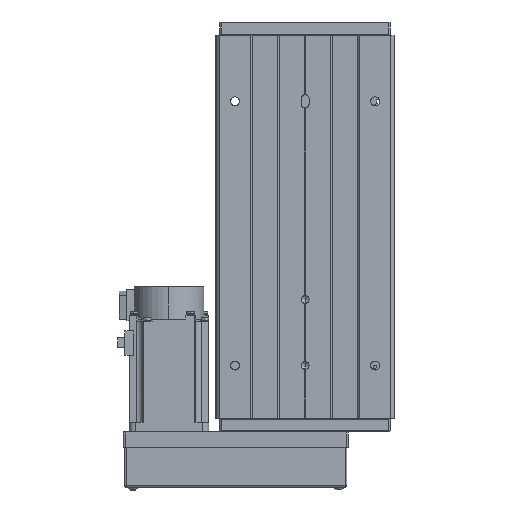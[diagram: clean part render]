
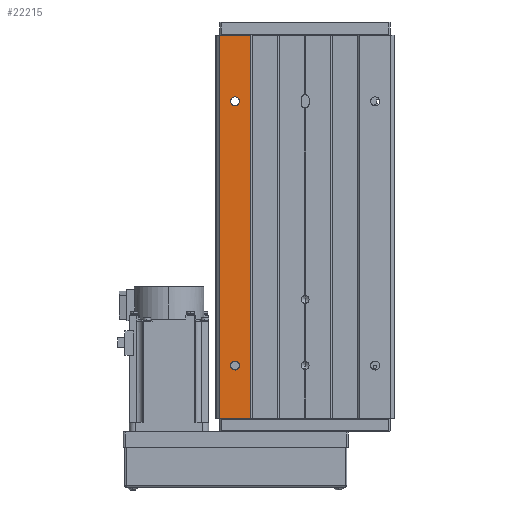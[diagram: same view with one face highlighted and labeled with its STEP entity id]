
A CAD part, front view. The second image highlights one B-rep face of the part: STEP entity #22215.
In plain terms, the highlighted planar face has unit normal (0, -1, 0).
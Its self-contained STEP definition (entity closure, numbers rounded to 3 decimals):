
#550 = LINE ( 'NONE', #13877, #19513 ) ;
#814 = DIRECTION ( 'NONE',  ( 0., 0., 1. ) ) ;
#1157 = DIRECTION ( 'NONE',  ( 0., 1., 0. ) ) ;
#1965 = CARTESIAN_POINT ( 'NONE',  ( 41., -1., 145. ) ) ;
#3184 = VERTEX_POINT ( 'NONE', #36130 ) ;
#3312 = CARTESIAN_POINT ( 'NONE',  ( 64.5, -1., 145. ) ) ;
#3517 = CARTESIAN_POINT ( 'NONE',  ( 53., -1., -95. ) ) ;
#4042 = CIRCLE ( 'NONE', #28418, 3.4 ) ;
#4135 = CIRCLE ( 'NONE', #28503, 3.4 ) ;
#4851 = ORIENTED_EDGE ( 'NONE', *, *, #41829, .T. ) ;
#5685 = AXIS2_PLACEMENT_3D ( 'NONE', #36392, #6546, #19836 ) ;
#6524 = DIRECTION ( 'NONE',  ( 0., 1., 0. ) ) ;
#6546 = DIRECTION ( 'NONE',  ( 0., 1., 0. ) ) ;
#7416 = CIRCLE ( 'NONE', #13001, 3.4 ) ;
#7836 = VERTEX_POINT ( 'NONE', #13710 ) ;
#8415 = LINE ( 'NONE', #21697, #40724 ) ;
#8490 = CARTESIAN_POINT ( 'NONE',  ( 53., -1., -91.6 ) ) ;
#9038 = ORIENTED_EDGE ( 'NONE', *, *, #38790, .T. ) ;
#9818 = FACE_OUTER_BOUND ( 'NONE', #29087, .T. ) ;
#10720 = DIRECTION ( 'NONE',  ( 0., 0., -1. ) ) ;
#12287 = VERTEX_POINT ( 'NONE', #20628 ) ;
#12297 = CARTESIAN_POINT ( 'NONE',  ( 53., -1., -98.4 ) ) ;
#12313 = VERTEX_POINT ( 'NONE', #24108 ) ;
#12869 = CARTESIAN_POINT ( 'NONE',  ( 64.5, -1., -145. ) ) ;
#13001 = AXIS2_PLACEMENT_3D ( 'NONE', #36366, #6524, #19819 ) ;
#13710 = CARTESIAN_POINT ( 'NONE',  ( 53., -1., 101.6 ) ) ;
#13877 = CARTESIAN_POINT ( 'NONE',  ( 40., -1., -145. ) ) ;
#13944 = ORIENTED_EDGE ( 'NONE', *, *, #26245, .F. ) ;
#13952 = ORIENTED_EDGE ( 'NONE', *, *, #39933, .T. ) ;
#14268 = EDGE_LOOP ( 'NONE', ( #13952, #34479 ) ) ;
#14293 = EDGE_CURVE ( 'NONE', #23790, #31443, #36133, .T. ) ;
#14475 = DIRECTION ( 'NONE',  ( 0., 0., 1. ) ) ;
#16289 = ORIENTED_EDGE ( 'NONE', *, *, #34163, .T. ) ;
#16834 = DIRECTION ( 'NONE',  ( 0., 1., 0. ) ) ;
#17363 = AXIS2_PLACEMENT_3D ( 'NONE', #3517, #16834, #30118 ) ;
#17403 = CARTESIAN_POINT ( 'NONE',  ( 53., -1., 105. ) ) ;
#19513 = VECTOR ( 'NONE', #27156, 1000. ) ;
#19819 = DIRECTION ( 'NONE',  ( 0., 0., 1. ) ) ;
#19836 = DIRECTION ( 'NONE',  ( -1., 0., 0. ) ) ;
#20628 = CARTESIAN_POINT ( 'NONE',  ( 53., -1., 108.4 ) ) ;
#21697 = CARTESIAN_POINT ( 'NONE',  ( 40., -1., 145. ) ) ;
#21818 = VERTEX_POINT ( 'NONE', #3312 ) ;
#22215 = ADVANCED_FACE ( 'NONE', ( #26373, #39651, #9818 ), #23101, .F. ) ;
#23101 = PLANE ( 'NONE',  #5685 ) ;
#23646 = EDGE_LOOP ( 'NONE', ( #39355, #4851 ) ) ;
#23790 = VERTEX_POINT ( 'NONE', #8490 ) ;
#24108 = CARTESIAN_POINT ( 'NONE',  ( 64.5, -1., -145. ) ) ;
#26140 = DIRECTION ( 'NONE',  ( 0., 0., 1. ) ) ;
#26245 = EDGE_CURVE ( 'NONE', #27060, #21818, #8415, .T. ) ;
#26373 = FACE_BOUND ( 'NONE', #23646, .T. ) ;
#26983 = VECTOR ( 'NONE', #10720, 1000. ) ;
#27060 = VERTEX_POINT ( 'NONE', #1965 ) ;
#27156 = DIRECTION ( 'NONE',  ( 1., 0., 0. ) ) ;
#27267 = LINE ( 'NONE', #40543, #26983 ) ;
#28418 = AXIS2_PLACEMENT_3D ( 'NONE', #31025, #1157, #14475 ) ;
#28503 = AXIS2_PLACEMENT_3D ( 'NONE', #17403, #30693, #814 ) ;
#29087 = EDGE_LOOP ( 'NONE', ( #9038, #38507, #13944, #16289 ) ) ;
#30118 = DIRECTION ( 'NONE',  ( 0., 0., 1. ) ) ;
#30693 = DIRECTION ( 'NONE',  ( 0., 1., 0. ) ) ;
#31025 = CARTESIAN_POINT ( 'NONE',  ( 53., -1., -95. ) ) ;
#31443 = VERTEX_POINT ( 'NONE', #12297 ) ;
#31964 = EDGE_CURVE ( 'NONE', #7836, #12287, #4135, .T. ) ;
#34163 = EDGE_CURVE ( 'NONE', #27060, #3184, #27267, .T. ) ;
#34464 = EDGE_CURVE ( 'NONE', #12313, #21818, #42697, .T. ) ;
#34479 = ORIENTED_EDGE ( 'NONE', *, *, #31964, .T. ) ;
#34985 = DIRECTION ( 'NONE',  ( 1., 0., 0. ) ) ;
#36130 = CARTESIAN_POINT ( 'NONE',  ( 41., -1., -145. ) ) ;
#36133 = CIRCLE ( 'NONE', #17363, 3.4 ) ;
#36366 = CARTESIAN_POINT ( 'NONE',  ( 53., -1., 105. ) ) ;
#36392 = CARTESIAN_POINT ( 'NONE',  ( 40., -1., 145. ) ) ;
#38507 = ORIENTED_EDGE ( 'NONE', *, *, #34464, .T. ) ;
#38790 = EDGE_CURVE ( 'NONE', #3184, #12313, #550, .T. ) ;
#39355 = ORIENTED_EDGE ( 'NONE', *, *, #14293, .T. ) ;
#39651 = FACE_BOUND ( 'NONE', #14268, .T. ) ;
#39933 = EDGE_CURVE ( 'NONE', #12287, #7836, #7416, .T. ) ;
#40543 = CARTESIAN_POINT ( 'NONE',  ( 41., -1., 145. ) ) ;
#40724 = VECTOR ( 'NONE', #34985, 1000. ) ;
#40892 = VECTOR ( 'NONE', #26140, 1000. ) ;
#41829 = EDGE_CURVE ( 'NONE', #31443, #23790, #4042, .T. ) ;
#42697 = LINE ( 'NONE', #12869, #40892 ) ;
